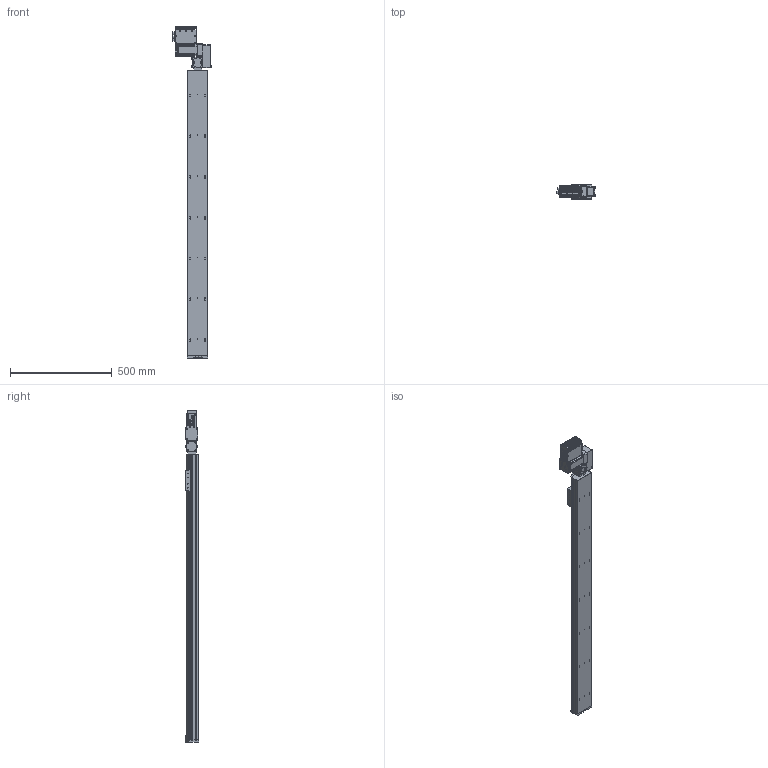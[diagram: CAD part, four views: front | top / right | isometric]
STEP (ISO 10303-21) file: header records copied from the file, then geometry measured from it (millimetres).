
FILE_DESCRIPTION (( 'STEP AP203' ), '1' );
FILE_NAME ('S10 TBN RH S1400.STEP', '2012-06-18T09:25:46', ( 'Conseil Régional Haute-Normandie' ), ( 'Conseil Régional Haute-Normandie' ), 'SwSTEP 2.0', 'SolidWorks 2010', '' );
FILE_SCHEMA (( 'CONFIG_CONTROL_DESIGN' ));
Products named in the file (29): Vis TF 3 torkx; S10 TBN RH S1400; embout; plaque de bout s10_Default; Plaque racord_Default; renvoi LH_Default; cache t皻e axe_Default; vis M5 L5_Default; Assem1_7; T_X2_00F4_X0_le contre le moteur_5; BU41 Carte Alimentation P05_3; Moteur 60BLDC90A_3; Couvercle_3; T_X2_00F4_X0_le fond_3; Connecteur rond D10 3cts_5; Colonnette ronde_3; T_X2_00F4_X0_le Arri_X2_00E8_X0_re_5; T_X2_00F4_X0_le lat_X2_00E9_X0_rale_5; Vis TF 3 torkx_1_1; palette tbn; Cvis M5 L30_Default; cache t皻e_Default; Vis M5 L16-2_Default_1; Colonnette_3; BU45 Carte d''axe A11_5; Sub D 9cts 90_X2_00B_X0__3; Connecteur rond D12 4cts_5; Radiateur profil_X2_00E9_X0_ 100x25_3; axe 1400
Assembly tree (65 placements, depth 3):
  S10 TBN RH S1400
    cache t皻e_Default  x2
    vis M5 L5_Default  x4
    Vis TF 3 torkx  x7
    palette tbn
    Plaque racord_Default
    Vis M5 L16-2_Default_1  x4
    cache t皻e axe_Default
    Cvis M5 L30_Default  x2
    Assem1_7
      BU41 Carte Alimentation P05_3
      Vis TF 3 torkx_1_1  x21
      Sub D 9cts 90_X2_00B_X0__3
      T_X2_00F4_X0_le lat_X2_00E9_X0_rale_5  x2
      Moteur 60BLDC90A_3
      T_X2_00F4_X0_le contre le moteur_5
      Connecteur rond D12 4cts_5
      Radiateur profil_X2_00E9_X0_ 100x25_3
      Colonnette_3  x2
      Colonnette ronde_3
      BU45 Carte d''axe A11_5
      Connecteur rond D10 3cts_5  x2
      T_X2_00F4_X0_le fond_3
      T_X2_00F4_X0_le Arri_X2_00E8_X0_re_5
      Couvercle_3
    plaque de bout s10_Default
    axe 1400
    embout
    renvoi LH_Default
Bounding box: 189.8 x 66.75 x 1628.5 mm (x, y, z)
Volume: 8135778.2 mm3; surface area: 990293.7 mm2
Topology: 64 solids, 64 shells, 2421 faces, 6047 edges, 3911 vertices
Faces by surface type: plane 1149, cylinder 1049, cone 188, bspline 32, torus 3
Entity records: 48402 total; most frequent: CARTESIAN_POINT 8688, DIRECTION 7818, ORIENTED_EDGE 7098, EDGE_CURVE 3549, AXIS2_PLACEMENT_3D 2902, VERTEX_POINT 2317, VECTOR 2014, LINE 2014
